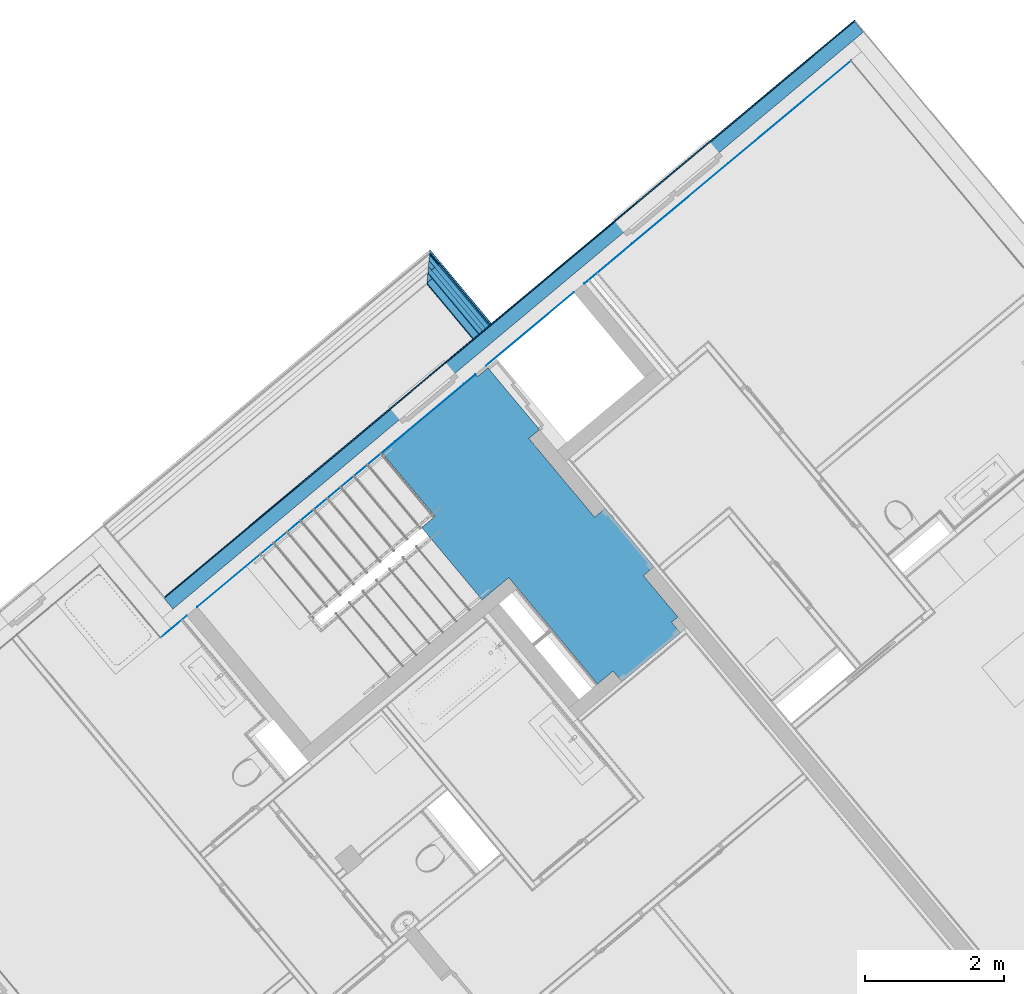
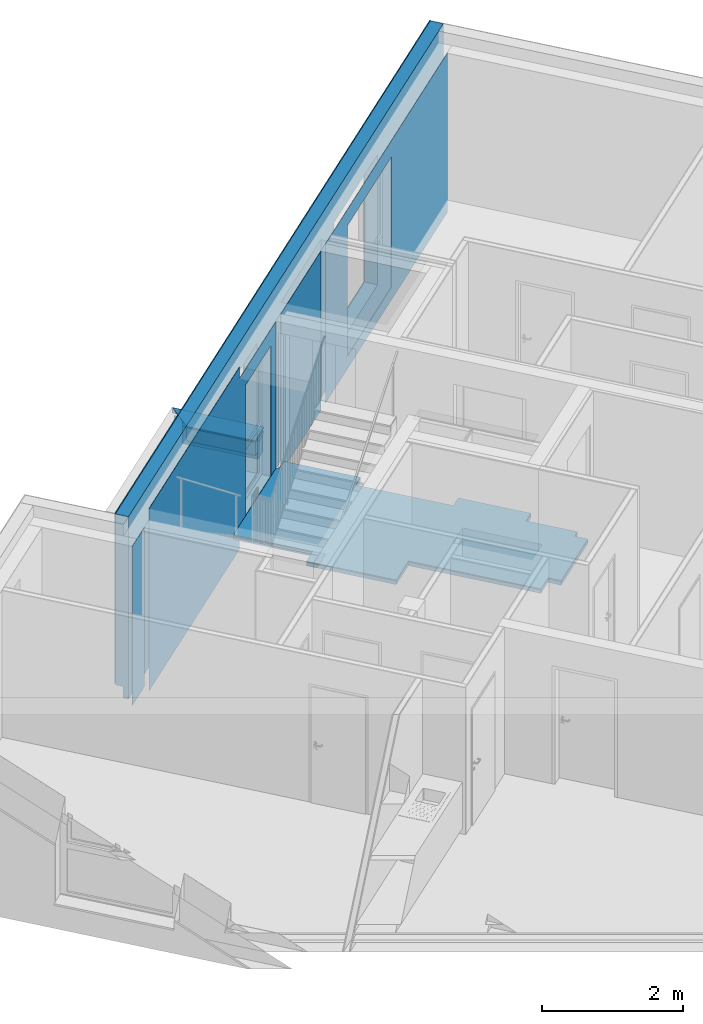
# One storey, part 34 of 53: 13 building element parts, 2 openings, 3 elements without a shape of their own.
"""IFC4 building model written with IfcOpenShell, lengths in metres."""

from ifc_helpers import new_model, entity, si_unit, converted_unit, derived_unit, direction, frame, origin_with_axes, place, context, subcontext, project, spatial, polygons, material, type_object, element, aggregate, save


model = new_model("IFC4")

# Units and contexts
model_context = context("Model", 3, precision=1e-05, world=origin_with_axes(), true_north=direction((0.0, 1.0)))
body_context = subcontext(model_context, "Body", "Model", "MODEL_VIEW")
ifc_project = project(units=[si_unit("LENGTHUNIT", "METRE"), si_unit("AREAUNIT", "SQUARE_METRE"), si_unit("VOLUMEUNIT", "CUBIC_METRE"), converted_unit("PLANEANGLEUNIT", "DEGREE", entity("IfcPlaneAngleMeasure", 0.0174532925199), si_unit("PLANEANGLEUNIT", "RADIAN"), dimensions=[0, 0, 0, 0, 0, 0, 0]), converted_unit("TIMEUNIT", "Year", entity("IfcTimeMeasure", 31556926.0), si_unit("TIMEUNIT", "SECOND"), dimensions=[0, 0, 1, 0, 0, 0, 0]), si_unit("MASSUNIT", "GRAM", prefix="KILO"), si_unit("THERMODYNAMICTEMPERATUREUNIT", "DEGREE_CELSIUS"), si_unit("LUMINOUSINTENSITYUNIT", "LUMEN"), si_unit("ENERGYUNIT", "JOULE", prefix="MEGA"), derived_unit("THERMALCONDUCTANCEUNIT", [(si_unit("POWERUNIT", "WATT"), 1), (si_unit("LENGTHUNIT", "METRE"), -1), (si_unit("THERMODYNAMICTEMPERATUREUNIT", "KELVIN"), -1)]), derived_unit("SPECIFICHEATCAPACITYUNIT", [(si_unit("ENERGYUNIT", "JOULE"), 1), (si_unit("MASSUNIT", "GRAM", prefix="KILO"), -1), (si_unit("THERMODYNAMICTEMPERATUREUNIT", "KELVIN"), -1)]), derived_unit("MASSDENSITYUNIT", [(si_unit("MASSUNIT", "GRAM", prefix="KILO"), 1), (si_unit("VOLUMEUNIT", "CUBIC_METRE"), -1)])], contexts=[model_context])

# Site, building, storey
site_placement = place(None, frame((-0.00153261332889, -0.00661245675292, 0.0), z_axis=(0.0, 0.0, 1.0), x_axis=(1.0, 0.0, 0.0)))
site = spatial("IfcSite", under=ifc_project, at=site_placement, Name="Gelände", CompositionType="ELEMENT")
building_placement = place(site_placement, origin_with_axes())
building = spatial("IfcBuilding", under=site, at=building_placement, Name="Gebäude", CompositionType="ELEMENT")
storey_placement = place(building_placement, frame((0.0, 0.0, 2.74), z_axis=(0.0, 0.0, 1.0), x_axis=(1.0, 0.0, 0.0)))
storey = spatial("IfcBuildingStorey", under=building, at=storey_placement, Name="OG1", CompositionType="ELEMENT", Elevation=2.74)

# Wall, openings, building element parts
wall_type_1 = type_object("IfcWallType", Name="AW EG 420", PredefinedType="NOTDEFINED")
wall_1_placement = place(storey_placement, frame((-4.30928730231, 22.6730576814, -0.2), z_axis=(0.0, 0.0, 1.0), x_axis=(0.76736585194, 0.641209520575, 0.0)))
wall_1 = element("IfcWall", 1, at=wall_1_placement, inside=storey, type_object=wall_type_1, Name="Wand-002", PredefinedType="NOTDEFINED")
opening_1_placement = place(wall_1_placement, frame((9.36342387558, 0.0, 0.42), z_axis=(0.0, 0.0, 1.0), x_axis=(1.0, 0.0, 0.0)))
element("IfcOpeningElement", 2, at=opening_1_placement, cuts=wall_1, Name="Fenster-001", context=body_context, identifier="Reference", shape_type="Tessellation", body=[
    polygons([(-0.9, -0.215, 0.0), (-0.9, -0.215, 2.26), (-0.9, 6.39300119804, 2.26), (-0.9, 6.39300119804, 0.0), (-0.9, -6.81300119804, 0.0), (-0.9, -6.81300119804, 2.26), (0.9, -0.215, 2.26), (0.9, 6.39300119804, 2.26), (0.9, -6.81300119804, 2.26), (0.9, 6.39300119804, 0.0), (0.9, -0.215, 0.0), (0.9, -6.81300119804, 0.0)], [[[1, 2, 3, 4]], [[2, 1, 5, 6]], [[7, 8, 3, 2, 6, 9]], [[8, 10, 4, 3]], [[1, 4, 10, 11, 12, 5]], [[6, 5, 12, 9]], [[7, 11, 10, 8]], [[11, 7, 9, 12]]], closed=True),
])
opening_2_placement = place(wall_1_placement, frame((4.76823224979, 0.0, 0.42), z_axis=(0.0, 0.0, 1.0), x_axis=(1.0, 0.0, 0.0)))
element("IfcOpeningElement", 3, at=opening_2_placement, cuts=wall_1, Name="Fenster-001", context=body_context, identifier="Reference", shape_type="Tessellation", body=[
    polygons([(-0.525, -0.215, 0.0), (-0.525, -0.215, 2.26), (-0.525, 6.39300119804, 2.26), (-0.525, 6.39300119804, 0.0), (-0.525, -6.81300119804, 0.0), (-0.525, -6.81300119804, 2.26), (0.525, -0.215, 2.26), (0.525, 6.39300119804, 2.26), (0.525, -6.81300119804, 2.26), (0.525, 6.39300119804, 0.0), (0.525, -0.215, 0.0), (0.525, -6.81300119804, 0.0)], [[[1, 2, 3, 4]], [[2, 1, 5, 6]], [[7, 8, 3, 2, 6, 9]], [[8, 10, 4, 3]], [[1, 4, 10, 11, 12, 5]], [[6, 5, 12, 9]], [[7, 11, 10, 8]], [[11, 7, 9, 12]]], closed=True),
])
ifc_material_1 = material(Name="Zementputz")
building_element_part_1_placement = place(wall_1_placement, origin_with_axes())
building_element_part_1 = element("IfcBuildingElementPart", 4, at=building_element_part_1_placement, material=ifc_material_1, Name="Zementputz", PredefinedType="NOTDEFINED", context=body_context, shape_type="Tessellation", body=[
    polygons([(0.0, 0.0, 3.16), (12.9907557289, 0.0, 3.16), (12.9907557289, 0.0, 0.0), (6.11693794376, 0.0, 0.0), (6.11693794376, 0.0, 0.2), (5.91693793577, 0.0, 0.2), (5.91693793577, 0.0, 0.215), (0.0, 0.0, 0.215), (10.2634238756, 0.0, 0.42), (10.2634238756, 0.0, 2.68), (8.46342387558, 0.0, 2.68), (8.46342387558, 0.0, 0.42), (4.24323224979, 0.0, 0.42), (5.29323224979, 0.0, 0.42), (5.29323224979, 0.0, 2.68), (4.24323224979, 0.0, 2.68), (-5.64821416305e-08, -0.015, 3.16), (12.9907557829, -0.015, 3.16), (12.9907557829, -0.015, 0.0), (6.11693794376, -0.015, 0.0), (6.11693794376, -0.015, 0.2), (5.91693793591, -0.01500000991, 0.2), (5.91693793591, -0.01500000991, 0.215), (-5.64821398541e-08, -0.0150000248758, 0.215), (10.2634238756, -0.01500000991, 2.68), (10.2634238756, -0.01500000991, 0.42), (8.46342387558, -0.01500000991, 2.68), (8.46342387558, -0.01500000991, 0.42), (4.24323224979, -0.015, 0.42), (5.29323224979, -0.015, 0.42), (5.29323224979, -0.015, 2.68), (4.24323224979, -0.015, 2.68)], [[[1, 2, 3, 4, 5, 6, 7, 8], [9, 10, 11, 12], [13, 14, 15, 16]], [[1, 17, 18, 2]], [[19, 3, 2, 18]], [[3, 19, 20, 4]], [[5, 4, 20, 21]], [[5, 21, 22, 6]], [[7, 6, 22, 23]], [[8, 7, 23, 24]], [[17, 1, 8, 24]], [[25, 10, 9, 26]], [[27, 11, 10, 25]], [[28, 12, 11, 27]], [[26, 9, 12, 28]], [[29, 30, 14, 13]], [[30, 31, 15, 14]], [[31, 32, 16, 15]], [[32, 29, 13, 16]], [[21, 20, 19, 18, 17, 24, 23, 22], [27, 25, 26, 28], [29, 32, 31, 30]]], closed=True),
])
ifc_material_2 = material(Name="EPS 1")
building_element_part_2_placement = place(wall_1_placement, origin_with_axes())
building_element_part_2 = element("IfcBuildingElementPart", 5, at=building_element_part_2_placement, material=ifc_material_2, Name="EPS 1", PredefinedType="NOTDEFINED", context=body_context, shape_type="Tessellation", body=[
    polygons([(6.11693794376, -0.015, 0.2), (-0.0150000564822, -0.015, 0.2), (-0.0150000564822, -0.015, 3.16), (12.9757557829, -0.015, 3.16), (12.9757557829, -0.015, 0.0), (6.11693794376, -0.015, 0.0), (10.2634238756, -0.015, 0.42), (10.2634238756, -0.015, 2.68), (8.46342387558, -0.015, 2.68), (8.46342387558, -0.015, 0.42), (4.24323224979, -0.015, 0.42), (5.29323224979, -0.015, 0.42), (5.29323224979, -0.015, 2.68), (4.24323224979, -0.015, 2.68), (6.11693794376, -0.135000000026, 0.2), (-0.0150005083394, -0.135000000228, 0.2), (-0.0150005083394, -0.135000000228, 0.0), (-0.0150008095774, -0.215, 0.0), (-0.0150008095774, -0.215, 3.16), (12.975756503, -0.215, 3.16), (12.975756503, -0.215, 0.0), (6.11693794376, -0.135000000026, 0.0), (10.2634238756, -0.215, 2.68), (10.2634238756, -0.215, 0.42), (8.46342387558, -0.215, 2.68), (8.46342387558, -0.215, 0.42), (4.24323224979, -0.215, 0.42), (5.29323224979, -0.215, 0.42), (5.29323224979, -0.215, 2.68), (4.24323224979, -0.215, 2.68)], [[[1, 2, 3, 4, 5, 6], [7, 8, 9, 10], [11, 12, 13, 14]], [[15, 16, 2, 1]], [[16, 17, 18, 19, 3, 2]], [[3, 19, 20, 4]], [[21, 5, 4, 20]], [[22, 6, 5, 21, 18, 17]], [[15, 1, 6, 22]], [[23, 8, 7, 24]], [[25, 9, 8, 23]], [[26, 10, 9, 25]], [[24, 7, 10, 26]], [[27, 28, 12, 11]], [[28, 29, 13, 12]], [[29, 30, 14, 13]], [[30, 27, 11, 14]], [[16, 15, 22, 17]], [[19, 18, 21, 20], [25, 23, 24, 26], [27, 30, 29, 28]]], closed=True),
])
building_element_part_3_placement = place(wall_1_placement, origin_with_axes())
building_element_part_3 = element("IfcBuildingElementPart", 6, at=building_element_part_3_placement, material=ifc_material_1, Name="Zementputz", PredefinedType="NOTDEFINED", context=body_context, shape_type="Tessellation", body=[
    polygons([(0.0754641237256, -0.415, 2.96), (0.0754641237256, -0.42, 2.96), (0.0754641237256, -0.42, 0.2), (0.0754641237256, -0.415, 0.2), (-0.415001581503, -0.42, 2.96), (-0.415001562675, -0.415, 2.96), (-0.415001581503, -0.42, 0.2), (-0.415001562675, -0.415, 0.2)], [[[1, 2, 3, 4]], [[5, 2, 1, 6]], [[2, 5, 7, 3]], [[4, 3, 7, 8]], [[6, 1, 4, 8]], [[5, 6, 8, 7]]], closed=True),
    polygons([(5.50769165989, -0.415, 2.96), (5.50769165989, -0.415, 0.2), (0.275464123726, -0.415, 0.2), (0.275464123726, -0.415, 2.96), (4.24323224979, -0.415, 0.42), (5.29323224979, -0.415, 0.42), (5.29323224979, -0.415, 2.68), (4.24323224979, -0.415, 2.68), (5.5076892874, -0.42, 2.96), (5.5076892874, -0.42, 0.2), (4.00167787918, -0.415547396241, 0.2), (0.275464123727, -0.41535668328, 0.2), (4.00167765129, -0.42, 0.2), (0.275464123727, -0.42, 0.0), (0.275464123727, -0.42, 3.16), (0.275464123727, -0.41535668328, 3.16), (0.275464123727, -0.41535668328, 2.96), (0.275464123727, -0.41535668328, 0.0), (4.00167787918, -0.415547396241, 2.96), (4.00167765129, -0.42, 2.96), (4.24323224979, -0.42, 0.42), (5.29323224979, -0.42, 0.42), (5.29323224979, -0.42, 2.68), (4.24323224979, -0.42, 2.68), (4.00167765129, -0.42, 3.16), (4.00167765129, -0.42, 0.0), (4.00167787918, -0.415547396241, 0.0), (4.00167787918, -0.415547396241, 3.16)], [[[1, 2, 3, 4], [5, 6, 7, 8]], [[9, 10, 2, 1]], [[11, 12, 3, 2, 10, 13]], [[14, 15, 16, 17, 4, 3, 12, 18]], [[4, 17, 19, 20, 9, 1]], [[21, 22, 6, 5]], [[22, 23, 7, 6]], [[23, 24, 8, 7]], [[24, 21, 5, 8]], [[9, 20, 25, 15, 14, 26, 13, 10], [21, 24, 23, 22]], [[18, 12, 11, 27]], [[26, 27, 11, 13]], [[15, 25, 28, 16]], [[28, 19, 17, 16]], [[26, 14, 18, 27]], [[25, 20, 19, 28]]], closed=True),
    polygons([(7.35743170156, -0.415, 2.96), (5.7076916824, -0.415, 2.96), (5.70768930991, -0.419999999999, 2.96), (7.35743170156, -0.419999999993, 2.96), (7.35743170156, -0.415, 0.2), (5.7076916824, -0.415, 0.2), (5.70768930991, -0.42, 0.2), (7.35743170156, -0.42, 0.2)], [[[1, 2, 3, 4]], [[1, 5, 6, 2]], [[3, 2, 6, 7]], [[3, 7, 8, 4]], [[1, 4, 8, 5]], [[6, 5, 8, 7]]], closed=True),
    polygons([(12.5757572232, -0.415, 2.96), (12.5757572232, -0.415, 0.2), (7.55743170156, -0.415, 0.2), (7.55743170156, -0.415, 2.96), (8.46342387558, -0.415, 0.42), (10.2634238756, -0.415, 0.42), (10.2634238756, -0.415, 2.68), (8.46342387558, -0.415, 2.68), (12.5757572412, -0.42, 2.96), (12.5757572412, -0.42, 0.2), (7.55743170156, -0.42, 0.2), (7.55743170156, -0.42, 2.96), (8.46342387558, -0.42, 0.42), (10.2634238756, -0.42, 0.42), (10.2634238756, -0.42, 2.68), (8.46342387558, -0.42, 2.68)], [[[1, 2, 3, 4], [5, 6, 7, 8]], [[9, 10, 2, 1]], [[10, 11, 3, 2]], [[4, 3, 11, 12]], [[9, 1, 4, 12]], [[13, 14, 6, 5]], [[14, 15, 7, 6]], [[15, 16, 8, 7]], [[16, 13, 5, 8]], [[12, 11, 10, 9], [13, 16, 15, 14]]], closed=True),
])
aggregate(wall_1, [building_element_part_1, building_element_part_2, building_element_part_3])

# Covering, building element parts
covering_type = type_object("IfcCoveringType", Name="DE 01 Decke Wohnung/Wohnung Fließen 220", PredefinedType="NOTDEFINED")
covering_placement = place(storey_placement, frame((0.186433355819, 25.8823468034, 0.22), z_axis=(0.0, 0.0, 1.0), x_axis=(1.0, 0.0, 0.0)))
covering = element("IfcCovering", 7, at=covering_placement, inside=storey, type_object=covering_type, Name="Decke-001", PredefinedType="NOTDEFINED")
ifc_material_3 = material(Name="Fliesen")
building_element_part_4_placement = place(covering_placement, origin_with_axes())
building_element_part_4 = element("IfcBuildingElementPart", 8, at=building_element_part_4_placement, material=ifc_material_3, Name="Fliesen", PredefinedType="NOTDEFINED", context=body_context, shape_type="Tessellation", body=[
    polygons([(0.0938673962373, -3.25162003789, -0.015), (0.286905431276, -3.09031781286, -0.015), (0.478971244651, -2.92982796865, -0.015), (0.478971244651, -2.92982796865, 0.0), (0.286905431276, -3.09031781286, 0.0), (0.0938673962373, -3.25162003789, 0.0), (-0.778128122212, -2.208157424, -0.015), (-0.584981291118, -2.04678108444, -0.015), (-1.35152231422, -1.12932957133, -0.015), (0.0, 0.0, -0.015), (0.0263065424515, -0.0315126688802, -0.015), (0.179840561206, 0.0966564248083, -0.015), (0.923221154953, -0.793840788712, -0.015), (0.769687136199, -0.922009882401, -0.015), (1.71748165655, -2.05737494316, -0.015), (1.87101560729, -1.92920584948, -0.015), (2.57594545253, -2.77364288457, -0.015), (2.42241150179, -2.90181197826, -0.015), (2.92064867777, -3.49865129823, -0.015), (2.82949713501, -3.57474389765, -0.015), (2.9576662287, -3.72827791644, -0.015), (2.11322919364, -4.43320776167, -0.015), (1.98506009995, -4.27967374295, -0.015), (1.76163589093, -4.4661866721, -0.015), (0.607213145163, -3.08330113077, -0.015), (0.607213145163, -3.08330113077, 0.0), (1.76163589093, -4.4661866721, 0.0), (1.98506009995, -4.27967374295, 0.0), (2.11322919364, -4.43320776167, 0.0), (2.9576662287, -3.72827791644, 0.0), (2.82949713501, -3.57474389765, 0.0), (2.92064867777, -3.49865129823, 0.0), (2.42241150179, -2.90181197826, 0.0), (2.57594545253, -2.77364288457, 0.0), (1.87101560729, -1.92920584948, 0.0), (1.71748165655, -2.05737494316, 0.0), (0.769687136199, -0.922009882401, 0.0), (0.923221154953, -0.793840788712, 0.0), (0.179840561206, 0.0966564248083, 0.0), (0.0263065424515, -0.0315126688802, 0.0), (0.0, 0.0, 0.0), (-1.35152231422, -1.12932957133, 0.0), (-0.584981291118, -2.04678108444, 0.0), (-0.778128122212, -2.208157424, 0.0)], [[[1, 2, 3, 4, 5, 6]], [[2, 1, 7, 8, 9, 10, 11, 12, 13, 14, 15, 16, 17, 18, 19, 20, 21, 22, 23, 24, 25, 3]], [[25, 26, 4, 3]], [[6, 5, 4, 26, 27, 28, 29, 30, 31, 32, 33, 34, 35, 36, 37, 38, 39, 40, 41, 42, 43, 44]], [[1, 6, 44, 7]], [[8, 7, 44, 43]], [[42, 9, 8, 43]], [[9, 42, 41, 10]], [[40, 11, 10, 41]], [[11, 40, 39, 12]], [[12, 39, 38, 13]], [[37, 14, 13, 38]], [[37, 36, 15, 14]], [[15, 36, 35, 16]], [[34, 17, 16, 35]], [[18, 17, 34, 33]], [[18, 33, 32, 19]], [[31, 20, 19, 32]], [[20, 31, 30, 21]], [[29, 22, 21, 30]], [[28, 23, 22, 29]], [[27, 24, 23, 28]], [[26, 25, 24, 27]]], closed=True),
])
ifc_material_4 = material(Name="Estrich")
building_element_part_5_placement = place(covering_placement, origin_with_axes())
building_element_part_5 = element("IfcBuildingElementPart", 9, at=building_element_part_5_placement, material=ifc_material_4, Name="Estrich", PredefinedType="NOTDEFINED", context=body_context, shape_type="Tessellation", body=[
    polygons([(0.0938673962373, -3.25162003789, -0.08), (0.286905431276, -3.09031781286, -0.08), (0.478971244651, -2.92982796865, -0.08), (0.478971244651, -2.92982796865, -0.015), (0.286905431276, -3.09031781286, -0.015), (0.0938673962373, -3.25162003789, -0.015), (-0.778128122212, -2.208157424, -0.08), (-0.584981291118, -2.04678108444, -0.08), (-1.35152231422, -1.12932957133, -0.08), (0.0, 0.0, -0.08), (0.0263065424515, -0.0315126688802, -0.08), (0.179840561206, 0.0966564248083, -0.08), (0.923221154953, -0.793840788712, -0.08), (0.769687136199, -0.922009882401, -0.08), (1.71748165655, -2.05737494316, -0.08), (1.87101560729, -1.92920584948, -0.08), (2.57594545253, -2.77364288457, -0.08), (2.42241150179, -2.90181197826, -0.08), (2.92064867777, -3.49865129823, -0.08), (2.82949713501, -3.57474389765, -0.08), (2.9576662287, -3.72827791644, -0.08), (2.11322919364, -4.43320776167, -0.08), (1.98506009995, -4.27967374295, -0.08), (1.76163589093, -4.4661866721, -0.08), (0.607213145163, -3.08330113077, -0.08), (0.607213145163, -3.08330113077, -0.015), (1.76163589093, -4.4661866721, -0.015), (1.98506009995, -4.27967374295, -0.015), (2.11322919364, -4.43320776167, -0.015), (2.9576662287, -3.72827791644, -0.015), (2.82949713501, -3.57474389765, -0.015), (2.92064867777, -3.49865129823, -0.015), (2.42241150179, -2.90181197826, -0.015), (2.57594545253, -2.77364288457, -0.015), (1.87101560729, -1.92920584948, -0.015), (1.71748165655, -2.05737494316, -0.015), (0.769687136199, -0.922009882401, -0.015), (0.923221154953, -0.793840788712, -0.015), (0.179840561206, 0.0966564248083, -0.015), (0.0263065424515, -0.0315126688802, -0.015), (0.0, 0.0, -0.015), (-1.35152231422, -1.12932957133, -0.015), (-0.584981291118, -2.04678108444, -0.015), (-0.778128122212, -2.208157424, -0.015)], [[[1, 2, 3, 4, 5, 6]], [[2, 1, 7, 8, 9, 10, 11, 12, 13, 14, 15, 16, 17, 18, 19, 20, 21, 22, 23, 24, 25, 3]], [[25, 26, 4, 3]], [[6, 5, 4, 26, 27, 28, 29, 30, 31, 32, 33, 34, 35, 36, 37, 38, 39, 40, 41, 42, 43, 44]], [[1, 6, 44, 7]], [[8, 7, 44, 43]], [[42, 9, 8, 43]], [[9, 42, 41, 10]], [[40, 11, 10, 41]], [[11, 40, 39, 12]], [[12, 39, 38, 13]], [[37, 14, 13, 38]], [[37, 36, 15, 14]], [[35, 16, 15, 36]], [[34, 17, 16, 35]], [[18, 17, 34, 33]], [[18, 33, 32, 19]], [[31, 20, 19, 32]], [[20, 31, 30, 21]], [[29, 22, 21, 30]], [[28, 23, 22, 29]], [[27, 24, 23, 28]], [[26, 25, 24, 27]]], closed=True),
])
aggregate(covering, [building_element_part_4, building_element_part_5])

# Wall, building element parts
wall_type_2 = type_object("IfcWallType", Name="Bauteil - Attika Balkon 356 x 610", PredefinedType="NOTDEFINED")
wall_2_placement = place(storey_placement, frame((0.23116865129, 26.46705483, -0.2), z_axis=(0.0, 0.0, 1.0), x_axis=(-0.64122328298, 0.76735435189, 0.0)))
wall_2 = element("IfcWall", 10, at=wall_2_placement, inside=storey, type_object=wall_type_2, Name="Wand-002", PredefinedType="NOTDEFINED")
ifc_material_5 = material(Name="Stahl")
building_element_part_6_placement = place(wall_2_placement, origin_with_axes())
building_element_part_6 = element("IfcBuildingElementPart", 11, at=building_element_part_6_placement, material=ifc_material_5, Name="Stahl", PredefinedType="NOTDEFINED", context=body_context, shape_type="Tessellation", body=[
    polygons([(1.03284050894, 0.113600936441, 0.498915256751), (1.03284050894, 0.113600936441, 0.499999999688), (1.03284048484, 0.112247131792, 0.499999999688), (1.03284048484, 0.112247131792, 0.498915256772), (1.03284050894, 0.113600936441, 0.497561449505), (0.0, 0.113600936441, 0.497561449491), (0.0, 0.113600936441, 0.597151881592), (1.03284050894, 0.113600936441, 0.597151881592), (1.03284050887, 0.113600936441, 0.595846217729), (1.03284050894, 0.113600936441, 0.586106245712), (1.03284050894, 0.113600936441, 0.584015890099), (1.03284050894, 0.113600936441, 0.581921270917), (1.03284050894, 0.113600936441, 0.57982217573), (1.03284050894, 0.113600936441, 0.575576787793), (1.03284050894, 0.113600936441, 0.559999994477), (1.03284050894, 0.113600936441, 0.519273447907), (1.03284050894, 0.113600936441, 0.511410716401), (1.03284050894, 0.113600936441, 0.509099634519), (1.03284050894, 0.113600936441, 0.506731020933), (1.03284048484, 0.112247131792, 0.506731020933), (1.03284048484, 0.112247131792, 0.509099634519), (1.03284048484, 0.112247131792, 0.511410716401), (1.03284048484, 0.112247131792, 0.519273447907), (1.03284048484, 0.112247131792, 0.559999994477), (1.03284048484, 0.112247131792, 0.575576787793), (1.03284048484, 0.112247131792, 0.57982217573), (1.03284048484, 0.112247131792, 0.581921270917), (1.03284048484, 0.112247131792, 0.584015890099), (1.03284048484, 0.112247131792, 0.586106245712), (1.03284048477, 0.112247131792, 0.595846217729), (0.0, 0.112247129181, 0.595846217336), (0.0, 0.112247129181, 0.498915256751), (1.03284045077, 0.110332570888, 0.498915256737), (1.03284047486, 0.11168637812, 0.497561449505), (1.03379777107, 0.112643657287, 0.496604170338), (0.0, 0.112643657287, 0.496604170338), (0.0, 0.103427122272, 0.505820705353), (0.0, 0.104431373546, 0.506731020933), (0.0, -0.23927649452, 0.608570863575), (0.0, -0.24135992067, 0.60865214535), (0.0, -0.241353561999, 0.511410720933), (0.0, -0.233490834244, 0.519273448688), (0.0, -0.232580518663, 0.518269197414), (0.0, -0.241750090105, 0.509099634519), (0.0, -0.242707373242, 0.510056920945), (0.0, -0.242707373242, 0.610055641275), (1.38914247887, -0.242707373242, 0.610055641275), (1.35038871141, -0.203952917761, 0.608652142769), (1.34814440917, -0.201708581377, 0.608570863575), (1.03283984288, 0.076177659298, 0.597151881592), (1.34814374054, -0.23927649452, 0.608570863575), (1.03419429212, 0.112247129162, 0.498915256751), (1.04200990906, 0.104431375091, 0.506731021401), (1.03527901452, 0.111162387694, 0.499999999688), (1.03419425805, 0.110332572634, 0.498915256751), (1.03527898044, 0.109247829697, 0.499999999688), (1.04109957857, 0.103427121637, 0.505820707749), (1.35038804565, -0.24135985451, 0.608652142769), (1.38778868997, -0.241353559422, 0.511410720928), (1.38587413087, -0.241353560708, 0.511410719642), (1.38779504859, -0.241359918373, 0.608652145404), (1.38779504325, -0.241359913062, 0.608570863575), (1.38779421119, -0.24135908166, 0.595846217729), (1.3877935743, -0.24135844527, 0.586106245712), (1.38779343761, -0.24135830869, 0.584015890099), (1.38779330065, -0.241358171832, 0.581921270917), (1.38779316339, -0.241358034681, 0.57982217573), (1.38779288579, -0.241357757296, 0.575576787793), (1.38779186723, -0.241356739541, 0.559999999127), (1.38778920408, -0.241354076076, 0.519273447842), (1.37901576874, -0.234495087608, 0.518269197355), (1.37992610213, -0.233490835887, 0.519273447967), (1.37901580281, -0.232580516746, 0.518269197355), (1.38587416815, -0.239439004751, 0.511410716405), (1.38818521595, -0.241750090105, 0.509099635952), (1.38722790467, -0.242707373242, 0.510056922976), (1.38587411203, -0.242707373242, 0.511410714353), (1.38778866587, -0.242707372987, 0.511410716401), (1.38778918, -0.242707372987, 0.519273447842), (1.38779184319, -0.242707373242, 0.559999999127), (1.38779286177, -0.242707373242, 0.575576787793), (1.38779313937, -0.242707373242, 0.57982217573), (1.38779327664, -0.242707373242, 0.581921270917), (1.3877934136, -0.242707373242, 0.584015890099), (1.38779355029, -0.242707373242, 0.586106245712), (1.3877941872, -0.242707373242, 0.595846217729), (1.38779501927, -0.242707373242, 0.608570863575), (1.38779502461, -0.242707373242, 0.60865214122), (1.35038802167, -0.242707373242, 0.608652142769)], [[[1, 2, 3, 4]], [[2, 1, 5, 6, 7, 8, 9, 10, 11, 12, 13, 14, 15, 16, 17, 18, 19]], [[2, 19, 20, 3]], [[4, 3, 20, 21, 22, 23, 24, 25, 26, 27, 28, 29, 30, 31, 32]], [[5, 1, 4, 33, 34]], [[5, 35, 36, 6]], [[6, 36, 37, 38, 32, 31, 39, 40, 41, 42, 43, 44, 45, 46, 7]], [[8, 7, 46, 47, 48, 49]], [[9, 8, 50, 30]], [[10, 9, 30, 29]], [[11, 10, 29, 28]], [[12, 11, 28, 27]], [[13, 12, 27, 26]], [[14, 13, 26, 25]], [[15, 14, 25, 24]], [[16, 15, 24, 23]], [[17, 16, 23, 22]], [[18, 17, 22, 21]], [[19, 18, 21, 20]], [[30, 50, 51, 39, 31]], [[52, 4, 32, 38, 53, 54]], [[4, 52, 55, 33]], [[35, 34, 33, 55, 56, 57, 37, 36]], [[35, 5, 34]], [[57, 53, 38, 37]], [[51, 58, 40, 39]], [[59, 60, 41, 40, 58, 61, 62, 63, 64, 65, 66, 67, 68, 69, 70]], [[71, 72, 42, 41, 60]], [[73, 43, 42, 72]], [[73, 74, 75, 44, 43]], [[75, 76, 45, 44]], [[76, 77, 78, 79, 80, 81, 82, 83, 84, 85, 86, 87, 88, 89, 47, 46, 45]], [[58, 48, 47, 89]], [[49, 48, 58, 51]], [[50, 8, 49, 51]], [[54, 53, 57, 56]], [[52, 54, 56, 55]], [[60, 59, 78, 77]], [[61, 58, 89, 88]], [[62, 61, 88, 87]], [[63, 62, 87, 86]], [[64, 63, 86, 85]], [[65, 64, 85, 84]], [[83, 66, 65, 84]], [[67, 66, 83, 82]], [[68, 67, 82, 81]], [[69, 68, 81, 80]], [[70, 69, 80, 79]], [[59, 70, 79, 78]], [[71, 73, 72]], [[74, 73, 71, 60]], [[74, 60, 77, 76, 75]]], closed=True),
])
ifc_material_6 = material(Name="Holzwerkstoff")
building_element_part_7_placement = place(wall_2_placement, origin_with_axes())
building_element_part_7 = element("IfcBuildingElementPart", 12, at=building_element_part_7_placement, material=ifc_material_6, Name="Holzwerkstoff", PredefinedType="NOTDEFINED", context=body_context, shape_type="Tessellation", body=[
    polygons([(1.03490210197, 0.111539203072, 0.575576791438), (1.03475385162, 0.111687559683, 0.579822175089), (1.03475168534, -0.0100326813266, 0.579822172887), (1.03460740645, 0.11183400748, 0.584015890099), (1.03468055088, 0.111760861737, 0.581921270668), (0.0, 0.111539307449, 0.575576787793), (0.0, 0.112247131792, 0.5958462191), (1.03419428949, 0.112247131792, 0.5958462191), (1.0345344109, 0.111907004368, 0.586106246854), (1.0346773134, -0.0701429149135, 0.581921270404), (0.0, -0.0100326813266, 0.579822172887), (1.0346031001, -0.130124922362, 0.584015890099), (0.0, -0.0701429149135, 0.581921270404), (0.0, -0.13012497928, 0.584015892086), (0.0, -0.189984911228, 0.586106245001), (0.0, -0.23999998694, 0.587852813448), (0.0, -0.23927649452, 0.608570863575), (1.38571166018, -0.239276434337, 0.608570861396), (1.03418802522, -0.239720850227, 0.5958462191), (1.03446715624, -0.23999998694, 0.587852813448), (1.03452903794, -0.189984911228, 0.586106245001)], [[[1, 2, 3]], [[4, 5, 2, 1, 6, 7, 8, 9]], [[2, 5, 10, 3]], [[1, 3, 11, 6]], [[5, 4, 12, 10]], [[7, 6, 11, 13, 14, 15, 16, 17]], [[18, 8, 7, 17]], [[9, 8, 19, 20, 21]], [[4, 9, 21, 12]], [[3, 10, 13, 11]], [[10, 12, 14, 13]], [[12, 21, 15, 14]], [[21, 20, 16, 15]], [[19, 18, 17, 16, 20]], [[8, 18, 19]]], closed=True),
])
building_element_part_8_placement = place(wall_2_placement, origin_with_axes())
building_element_part_8 = element("IfcBuildingElementPart", 13, at=building_element_part_8_placement, material=ifc_material_2, Name="EPS 1", PredefinedType="NOTDEFINED", context=body_context, shape_type="Tessellation", body=[
    polygons([(1.04643942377, -2.39911202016e-10, 0.519273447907), (1.04643942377, -2.39911202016e-10, 0.560000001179), (0.0, -2.39907649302e-10, 0.560000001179), (0.0, -2.39907649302e-10, 0.334999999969), (1.04643942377, -2.39911202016e-10, 0.334999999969), (1.04643942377, -2.39911202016e-10, 0.496604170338), (1.04643942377, -2.39911202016e-10, 0.498915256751), (1.04643942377, -2.39911202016e-10, 0.499999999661), (1.04643942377, -2.39911202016e-10, 0.506731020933), (1.04643942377, -2.39911202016e-10, 0.509099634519), (1.04643942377, -2.39911202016e-10, 0.511410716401), (1.04644120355, 0.0999999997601, 0.560000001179), (1.04644120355, 0.0999999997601, 0.519273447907), (0.0, 0.0999999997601, 0.560000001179), (0.0, 0.0999999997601, 0.334999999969), (1.04644120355, 0.0999999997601, 0.334999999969), (1.04644120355, 0.0999999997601, 0.496604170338), (1.04644120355, 0.0999999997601, 0.498915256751), (1.04644120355, 0.0999999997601, 0.499999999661), (1.04644120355, 0.0999999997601, 0.506731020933), (1.04644120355, 0.0999999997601, 0.509099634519), (1.04644120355, 0.0999999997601, 0.511410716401)], [[[1, 2, 3, 4, 5, 6, 7, 8, 9, 10, 11]], [[12, 2, 1, 13]], [[2, 12, 14, 3]], [[4, 3, 14, 15]], [[16, 5, 4, 15]], [[17, 6, 5, 16]], [[18, 7, 6, 17]], [[19, 8, 7, 18]], [[20, 9, 8, 19]], [[21, 10, 9, 20]], [[22, 11, 10, 21]], [[13, 1, 11, 22]], [[12, 13, 22, 21, 20, 19, 18, 17, 16, 15, 14]]], closed=True),
])
ifc_material_7 = material(Name="Vollholz")
building_element_part_9_placement = place(wall_2_placement, origin_with_axes())
building_element_part_9 = element("IfcBuildingElementPart", 14, at=building_element_part_9_placement, material=ifc_material_7, Name="Vollholz", PredefinedType="NOTDEFINED", context=body_context, shape_type="Tessellation", body=[
    polygons([(1.15647192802, -0.0100326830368, 0.579822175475), (1.15647085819, -0.0701429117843, 0.579822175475), (1.1564944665, -0.0701429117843, 0.575576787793), (1.15649553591, -0.0100562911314, 0.575576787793), (1.21658108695, -0.0701429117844, 0.581921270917), (0.0, -0.0701429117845, 0.581921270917), (0.0, -0.0701429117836, 0.560000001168), (1.15658108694, -0.0701429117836, 0.560000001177), (1.15658215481, -0.0101429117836, 0.560000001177), (0.0, -0.0101429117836, 0.560000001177), (0.0, -0.0100326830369, 0.579822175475)], [[[1, 2, 3, 4]], [[5, 2, 1]], [[2, 5, 6, 7, 8, 3]], [[9, 4, 3, 8]], [[1, 4, 9, 10, 11]], [[5, 1, 11, 6]], [[10, 7, 6, 11]], [[7, 10, 9, 8]]], closed=True),
])
ifc_material_8 = material(Name="Stahlbeton")
building_element_part_10_placement = place(wall_2_placement, origin_with_axes())
building_element_part_10 = element("IfcBuildingElementPart", 15, at=building_element_part_10_placement, material=ifc_material_8, Name="Stahlbeton", PredefinedType="NOTDEFINED", context=body_context, shape_type="Tessellation", body=[
    polygons([(1.14643586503, -0.19999996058, 0.498915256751), (1.14643586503, -0.19999996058, 0.500000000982), (0.0, -0.19999996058, 0.500000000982), (0.0, -0.19999996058, 0.2), (1.14643586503, -0.19999996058, 0.2), (1.14643586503, -0.19999996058, 0.334999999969), (1.14643586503, -0.19999996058, 0.496604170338), (1.1464394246, -1.05296749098e-09, 0.500000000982), (1.1464394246, -1.05296749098e-09, 0.498915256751), (0.0, -1.05297104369e-09, 0.500000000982), (0.0, -1.05297104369e-09, 0.2), (0.0, -1.05297104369e-09, 0.335000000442), (1.1464394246, -1.05296749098e-09, 0.2), (1.1464394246, -1.05296749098e-09, 0.334999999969), (1.1464394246, -1.05296749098e-09, 0.496604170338)], [[[1, 2, 3, 4, 5, 6, 7]], [[8, 2, 1, 9]], [[2, 8, 10, 3]], [[11, 4, 3, 10, 12]], [[13, 5, 4, 11]], [[14, 6, 5, 13]], [[15, 7, 6, 14]], [[9, 1, 7, 15]], [[8, 9, 15, 14, 12, 10]], [[14, 13, 11, 12]]], closed=True),
])
ifc_material_9 = material(Name="Brettschichtholz")
building_element_part_11_placement = place(wall_2_placement, origin_with_axes())
building_element_part_11 = element("IfcBuildingElementPart", 16, at=building_element_part_11_placement, material=ifc_material_9, Name="Brettschichtholz", PredefinedType="NOTDEFINED", context=body_context, shape_type="Tessellation", body=[
    polygons([(1.14643559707, -0.214999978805, 0.519273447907), (1.14643559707, -0.214999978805, 0.560000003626), (0.0, -0.214999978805, 0.560000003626), (0.0, -0.214999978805, 0.499999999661), (1.14643559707, -0.214999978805, 0.499999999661), (1.14643559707, -0.214999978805, 0.506731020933), (1.14643559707, -0.214999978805, 0.509099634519), (1.14643559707, -0.214999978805, 0.511410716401), (1.14643603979, -0.190124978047, 0.560000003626), (1.1464394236, 0.0, 0.519273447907), (1.1464394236, 0.0, 0.560000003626), (1.14643924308, -0.010142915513, 0.560000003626), (1.14643817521, -0.0701429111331, 0.560000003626), (1.14643710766, -0.130124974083, 0.560000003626), (0.0, -0.190124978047, 0.559999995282), (0.0, -0.130124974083, 0.559999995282), (0.0, -0.0701429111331, 0.559999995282), (0.0, -0.010142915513, 0.559999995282), (0.0, 0.0, 0.560000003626), (0.0, 0.0, 0.499999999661), (1.1464394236, 0.0, 0.499999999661), (1.1464394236, 0.0, 0.506731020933), (1.1464394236, 0.0, 0.509099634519), (1.1464394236, 0.0, 0.511410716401)], [[[1, 2, 3, 4, 5, 6, 7, 8]], [[9, 2, 1, 10, 11, 12, 13, 14]], [[2, 9, 15, 3]], [[4, 3, 15, 16, 17, 18, 19, 20]], [[21, 5, 4, 20]], [[22, 6, 5, 21]], [[23, 7, 6, 22]], [[24, 8, 7, 23]], [[10, 1, 8, 24]], [[11, 10, 24, 23, 22, 21, 20, 19]], [[12, 11, 19, 18]], [[13, 12, 18, 17]], [[14, 13, 17, 16]], [[9, 14, 16, 15]]], closed=True),
])
building_element_part_12_placement = place(wall_2_placement, origin_with_axes())
building_element_part_12 = element("IfcBuildingElementPart", 17, at=building_element_part_12_placement, material=ifc_material_7, Name="Vollholz", PredefinedType="NOTDEFINED", context=body_context, shape_type="Tessellation", body=[
    polygons([(1.27656208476, -0.130124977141, 0.584015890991), (1.27656101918, -0.189996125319, 0.584015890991), (1.27656101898, -0.190007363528, 0.581921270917), (1.27656208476, -0.130124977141, 0.581921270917), (1.33642095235, -0.189984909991, 0.586106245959), (0.0, -0.189984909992, 0.586106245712), (0.0, -0.190124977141, 0.560000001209), (1.27656101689, -0.190124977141, 0.560000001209), (1.27656101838, -0.190041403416, 0.575576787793), (1.27656101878, -0.190018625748, 0.57982217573), (1.27656208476, -0.130124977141, 0.57982217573), (1.27656208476, -0.130124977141, 0.560000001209), (0.0, -0.130124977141, 0.560000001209), (0.0, -0.130124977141, 0.584015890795), (1.27656208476, -0.130124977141, 0.575576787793)], [[[1, 2, 3, 4]], [[5, 2, 1]], [[2, 5, 6, 7, 8, 9, 10, 3]], [[3, 10, 11, 4]], [[12, 13, 14, 1, 4, 11, 15]], [[5, 1, 14, 6]], [[13, 7, 6, 14]], [[12, 8, 7, 13]], [[12, 15, 9, 8]], [[9, 15, 11, 10]]], closed=True),
])
building_element_part_13_placement = place(wall_2_placement, origin_with_axes())
building_element_part_13 = element("IfcBuildingElementPart", 18, at=building_element_part_13_placement, material=ifc_material_1, Name="Zementputz", PredefinedType="NOTDEFINED", context=body_context, shape_type="Tessellation", body=[
    polygons([(1.34643556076, -0.214999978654, 0.498915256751), (1.34643556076, -0.214999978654, 0.500000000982), (0.0, -0.214999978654, 0.500000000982), (0.0, -0.214999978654, 0.0), (1.34643556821, -0.214999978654, 0.0), (1.34643556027, -0.214999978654, 0.2), (1.34643556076, -0.214999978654, 0.334999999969), (1.34643556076, -0.214999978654, 0.496604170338), (1.34643582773, -0.199999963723, 0.500000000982), (1.34643582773, -0.199999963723, 0.498915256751), (0.0, -0.199999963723, 0.500000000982), (0.0, -0.199999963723, 0.200000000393), (0.0, -0.199999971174, 0.0), (1.34643583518, -0.199999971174, 0.0), (1.34643582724, -0.199999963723, 0.2), (1.34643582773, -0.199999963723, 0.334999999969), (1.34643582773, -0.199999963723, 0.496604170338)], [[[1, 2, 3, 4, 5, 6, 7, 8]], [[9, 2, 1, 10]], [[2, 9, 11, 3]], [[4, 3, 11, 12, 13]], [[14, 5, 4, 13]], [[15, 6, 5, 14]], [[16, 7, 6, 15]], [[17, 8, 7, 16]], [[10, 1, 8, 17]], [[9, 10, 17, 16, 15, 12, 11]], [[15, 14, 13, 12]]], closed=True),
])
aggregate(wall_2, [building_element_part_6, building_element_part_7, building_element_part_8, building_element_part_9, building_element_part_10, building_element_part_11, building_element_part_12, building_element_part_13])

save(model, "model.ifc")
